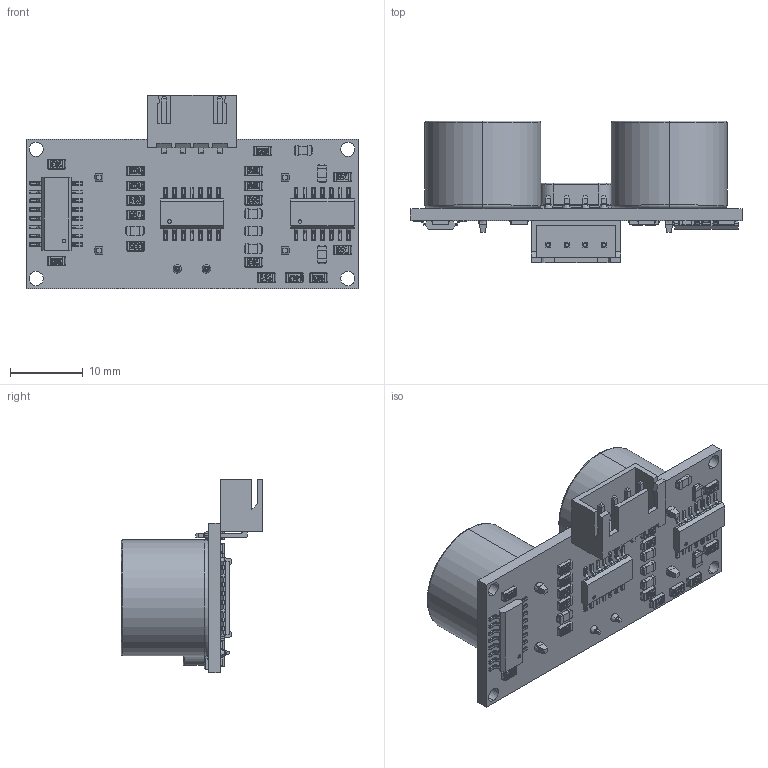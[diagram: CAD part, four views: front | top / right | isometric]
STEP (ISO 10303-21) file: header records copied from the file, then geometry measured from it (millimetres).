
FILE_DESCRIPTION (( 'STEP AP214' ), '1' );
FILE_NAME ('HC-SR04.STEP', '2025-04-17T03:48:14', ( '' ), ( '' ), 'SwSTEP 2.0', 'SolidWorks 2023', '' );
FILE_SCHEMA (( 'AUTOMOTIVE_DESIGN' ));
Length unit declared in the file: millimetre
Products named in the file (1): HC-SR04
Bounding box: 45.5 x 19.44 x 26.51 mm (x, y, z)
Volume: 4131.5 mm3; surface area: 7877.6 mm2
Topology: 143 solids, 163 shells, 5611 faces, 14744 edges, 9498 vertices
Faces by surface type: plane 3769, cylinder 818, bspline 706, torus 226, sphere 88, cone 4
Entity records: 265280 total; most frequent: CARTESIAN_POINT 67264, ORIENTED_EDGE 29304, DIRECTION 24390, EDGE_CURVE 14652, VECTOR 11110, LINE 11110, VERTEX_POINT 9498, AXIS2_PLACEMENT_3D 6640
